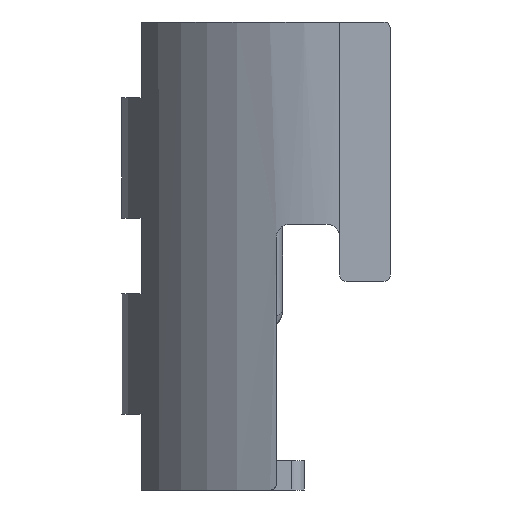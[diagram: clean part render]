
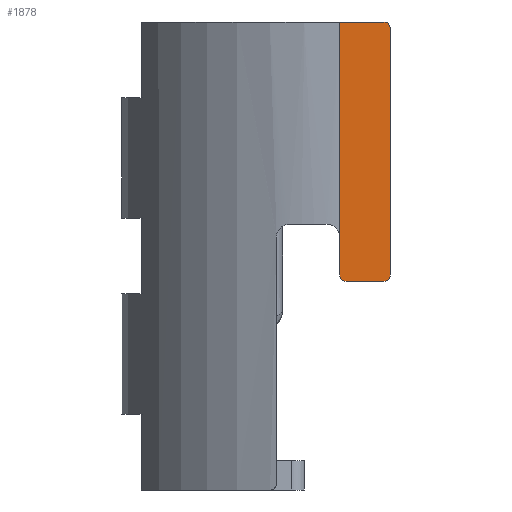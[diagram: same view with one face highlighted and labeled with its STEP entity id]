
A CAD part, left-side view. The second image highlights one B-rep face of the part: STEP entity #1878.
In plain terms, the highlighted planar face has unit normal (-1, 0, 0).
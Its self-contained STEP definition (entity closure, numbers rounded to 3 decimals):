
#57 = CARTESIAN_POINT ( 'NONE',  ( -39.8, 0., -2. ) ) ;
#124 = CARTESIAN_POINT ( 'NONE',  ( -39.8, -0.5, -1.5 ) ) ;
#195 = DIRECTION ( 'NONE',  ( -1., 0., 0. ) ) ;
#298 = CARTESIAN_POINT ( 'NONE',  ( -39.8, 0., 1.5 ) ) ;
#307 = VECTOR ( 'NONE', #2969, 1000. ) ;
#309 = DIRECTION ( 'NONE',  ( 1., 0., 0. ) ) ;
#459 = CARTESIAN_POINT ( 'NONE',  ( -39.8, 0., 18.5 ) ) ;
#544 = DIRECTION ( 'NONE',  ( -1., 0., 0. ) ) ;
#612 = EDGE_CURVE ( 'NONE', #1333, #1746, #2695, .T. ) ;
#635 = DIRECTION ( 'NONE',  ( 0., 0., -1. ) ) ;
#671 = EDGE_CURVE ( 'NONE', #2091, #1220, #2601, .T. ) ;
#701 = DIRECTION ( 'NONE',  ( 0., 0., -1. ) ) ;
#807 = LINE ( 'NONE', #459, #1737 ) ;
#920 = AXIS2_PLACEMENT_3D ( 'NONE', #3483, #309, #2025 ) ;
#957 = ORIENTED_EDGE ( 'NONE', *, *, #3376, .F. ) ;
#987 = CARTESIAN_POINT ( 'NONE',  ( -39.8, 0., -1.5 ) ) ;
#1028 = CIRCLE ( 'NONE', #1955, 0.5 ) ;
#1121 = ORIENTED_EDGE ( 'NONE', *, *, #3256, .F. ) ;
#1158 = EDGE_CURVE ( 'NONE', #3323, #2321, #3681, .T. ) ;
#1170 = CARTESIAN_POINT ( 'NONE',  ( -39.8, -3.5, -2. ) ) ;
#1205 = VECTOR ( 'NONE', #1943, 1000. ) ;
#1220 = VERTEX_POINT ( 'NONE', #2706 ) ;
#1234 = EDGE_CURVE ( 'NONE', #1512, #1220, #1657, .T. ) ;
#1333 = VERTEX_POINT ( 'NONE', #987 ) ;
#1512 = VERTEX_POINT ( 'NONE', #2526 ) ;
#1517 = CARTESIAN_POINT ( 'NONE',  ( -39.8, -4., 18.5 ) ) ;
#1542 = EDGE_CURVE ( 'NONE', #1512, #2410, #1028, .T. ) ;
#1657 = LINE ( 'NONE', #1517, #2889 ) ;
#1691 = CARTESIAN_POINT ( 'NONE',  ( -39.8, -3.5, 18.5 ) ) ;
#1723 = ORIENTED_EDGE ( 'NONE', *, *, #1158, .T. ) ;
#1737 = VECTOR ( 'NONE', #2774, 1000. ) ;
#1742 = DIRECTION ( 'NONE',  ( 0., 0., 1. ) ) ;
#1746 = VERTEX_POINT ( 'NONE', #3671 ) ;
#1878 = ADVANCED_FACE ( 'NONE', ( #3526 ), #3178, .F. ) ;
#1943 = DIRECTION ( 'NONE',  ( 0., 1., 0. ) ) ;
#1955 = AXIS2_PLACEMENT_3D ( 'NONE', #3421, #544, #2561 ) ;
#2025 = DIRECTION ( 'NONE',  ( 0., 0., -1. ) ) ;
#2062 = LINE ( 'NONE', #57, #2253 ) ;
#2084 = EDGE_CURVE ( 'NONE', #1333, #2321, #2062, .T. ) ;
#2091 = VERTEX_POINT ( 'NONE', #1170 ) ;
#2138 = DIRECTION ( 'NONE',  ( -1., 0., 0. ) ) ;
#2187 = CARTESIAN_POINT ( 'NONE',  ( -39.8, 0., 18.5 ) ) ;
#2239 = ORIENTED_EDGE ( 'NONE', *, *, #612, .T. ) ;
#2253 = VECTOR ( 'NONE', #1742, 1000. ) ;
#2321 = VERTEX_POINT ( 'NONE', #298 ) ;
#2410 = VERTEX_POINT ( 'NONE', #1691 ) ;
#2466 = DIRECTION ( 'NONE',  ( 0., 0., -1. ) ) ;
#2526 = CARTESIAN_POINT ( 'NONE',  ( -39.8, -4., 18. ) ) ;
#2561 = DIRECTION ( 'NONE',  ( 0., 0., -1. ) ) ;
#2576 = EDGE_LOOP ( 'NONE', ( #3678, #3701, #957, #1723, #3271, #2239, #1121, #2898 ) ) ;
#2601 = CIRCLE ( 'NONE', #3080, 0.5 ) ;
#2695 = CIRCLE ( 'NONE', #3555, 0.5 ) ;
#2706 = CARTESIAN_POINT ( 'NONE',  ( -39.8, -4., -1.5 ) ) ;
#2774 = DIRECTION ( 'NONE',  ( 0., -1., 0. ) ) ;
#2889 = VECTOR ( 'NONE', #635, 1000. ) ;
#2898 = ORIENTED_EDGE ( 'NONE', *, *, #671, .T. ) ;
#2969 = DIRECTION ( 'NONE',  ( 0., 0., -1. ) ) ;
#3064 = CARTESIAN_POINT ( 'NONE',  ( -39.8, -3.5, -1.5 ) ) ;
#3080 = AXIS2_PLACEMENT_3D ( 'NONE', #3064, #195, #2466 ) ;
#3178 = PLANE ( 'NONE',  #920 ) ;
#3245 = CARTESIAN_POINT ( 'NONE',  ( -39.8, 0., 18.5 ) ) ;
#3256 = EDGE_CURVE ( 'NONE', #2091, #1746, #3531, .T. ) ;
#3271 = ORIENTED_EDGE ( 'NONE', *, *, #2084, .F. ) ;
#3323 = VERTEX_POINT ( 'NONE', #2187 ) ;
#3376 = EDGE_CURVE ( 'NONE', #3323, #2410, #807, .T. ) ;
#3421 = CARTESIAN_POINT ( 'NONE',  ( -39.8, -3.5, 18. ) ) ;
#3483 = CARTESIAN_POINT ( 'NONE',  ( -39.8, 0., 18.5 ) ) ;
#3526 = FACE_OUTER_BOUND ( 'NONE', #2576, .T. ) ;
#3531 = LINE ( 'NONE', #3705, #1205 ) ;
#3555 = AXIS2_PLACEMENT_3D ( 'NONE', #124, #2138, #701 ) ;
#3671 = CARTESIAN_POINT ( 'NONE',  ( -39.8, -0.5, -2. ) ) ;
#3678 = ORIENTED_EDGE ( 'NONE', *, *, #1234, .F. ) ;
#3681 = LINE ( 'NONE', #3245, #307 ) ;
#3701 = ORIENTED_EDGE ( 'NONE', *, *, #1542, .T. ) ;
#3705 = CARTESIAN_POINT ( 'NONE',  ( -39.8, -4., -2. ) ) ;
